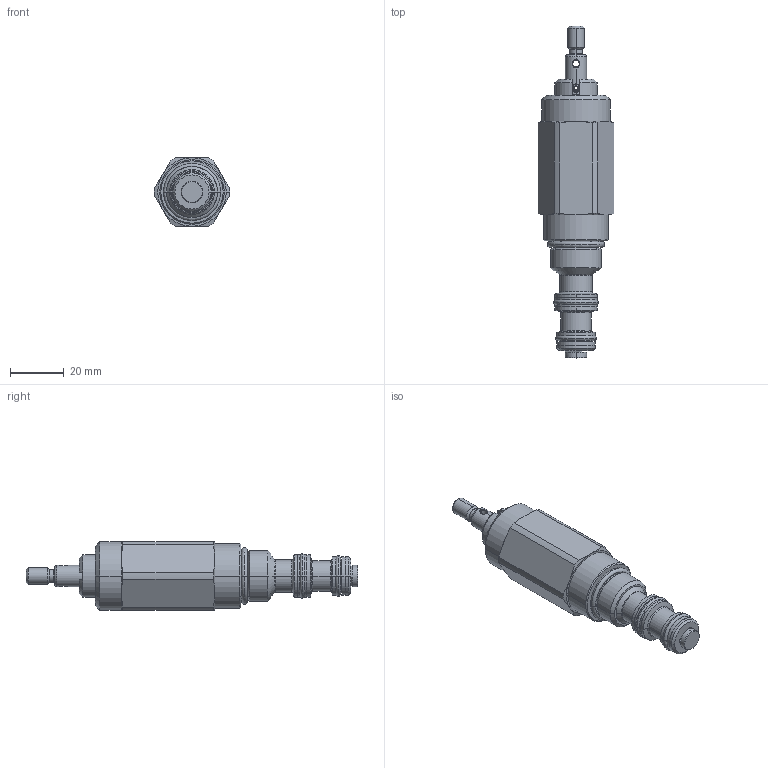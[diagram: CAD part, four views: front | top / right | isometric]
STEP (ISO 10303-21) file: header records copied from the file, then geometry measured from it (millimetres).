
FILE_DESCRIPTION((''),'2;1');
FILE_NAME('MP08-30R','2009-02-04T',('jcs'),(''),'PRO/ENGINEER BY PARAMETRIC TECHNOLOGY CORPORATION, 2008010','PRO/ENGINEER BY PARAMETRIC TECHNOLOGY CORPORATION, 2008010','');
FILE_SCHEMA(('CONFIG_CONTROL_DESIGN'));
Length unit declared in the file: inch
Products named in the file (1): MP08-30R
Bounding box: 28.04 x 123.09 x 25.4 mm (x, y, z)
Volume: 37278.5 mm3; surface area: 10322.5 mm2
Topology: 4 solids, 4 shells, 209 faces, 481 edges, 288 vertices
Faces by surface type: cylinder 60, plane 54, cone 49, revolution 24, torus 22
Entity records: 6787 total; most frequent: CARTESIAN_POINT 1972, DIRECTION 1041, ORIENTED_EDGE 962, EDGE_CURVE 481, AXIS2_PLACEMENT_3D 429, VERTEX_POINT 288, CIRCLE 244, EDGE_LOOP 227
